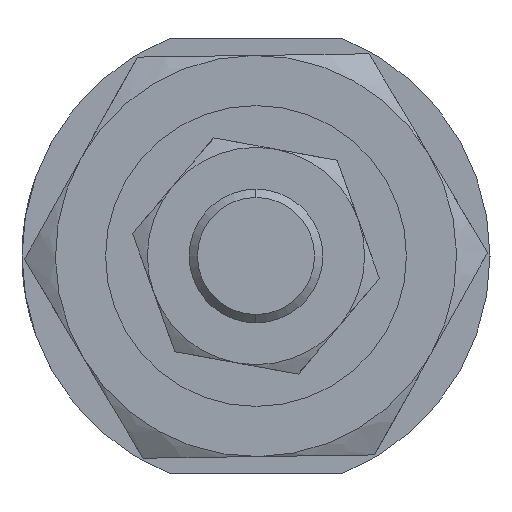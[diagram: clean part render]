
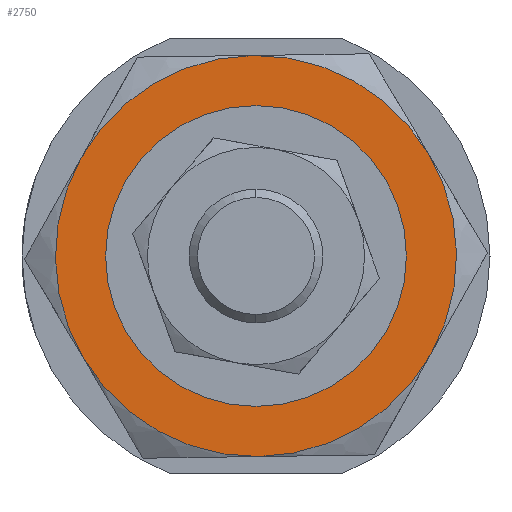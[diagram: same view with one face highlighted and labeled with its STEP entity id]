
A CAD part, left-side view. The second image highlights one B-rep face of the part: STEP entity #2750.
In plain terms, the highlighted planar face has unit normal (-1, 0, 0) as drawn and (0, 0, -1) by its records, which use the part's own axes.
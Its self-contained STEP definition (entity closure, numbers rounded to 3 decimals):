
#73 = CIRCLE ( 'NONE', #2698, 8.25 ) ;
#76 = AXIS2_PLACEMENT_3D ( 'NONE', #472, #2288, #879 ) ;
#184 = ORIENTED_EDGE ( 'NONE', *, *, #2745, .F. ) ;
#187 = DIRECTION ( 'NONE',  ( 0., 0., 1. ) ) ;
#189 = CARTESIAN_POINT ( 'NONE',  ( 0., 0., -4. ) ) ;
#280 = VERTEX_POINT ( 'NONE', #2478 ) ;
#336 = VERTEX_POINT ( 'NONE', #3116 ) ;
#351 = AXIS2_PLACEMENT_3D ( 'NONE', #2724, #1900, #3055 ) ;
#359 = CARTESIAN_POINT ( 'NONE',  ( -8.25, 0., -4. ) ) ;
#406 = EDGE_CURVE ( 'NONE', #336, #1856, #1368, .T. ) ;
#472 = CARTESIAN_POINT ( 'NONE',  ( 0., 0., -4. ) ) ;
#495 = EDGE_LOOP ( 'NONE', ( #1609, #2589 ) ) ;
#570 = ORIENTED_EDGE ( 'NONE', *, *, #3195, .F. ) ;
#588 = AXIS2_PLACEMENT_3D ( 'NONE', #1299, #620, #3022 ) ;
#593 = CARTESIAN_POINT ( 'NONE',  ( 0., 0., -4. ) ) ;
#620 = DIRECTION ( 'NONE',  ( 0., 0., 1. ) ) ;
#743 = CARTESIAN_POINT ( 'NONE',  ( 6., -10.392, -4. ) ) ;
#749 = DIRECTION ( 'NONE',  ( 0., 0., 1. ) ) ;
#879 = DIRECTION ( 'NONE',  ( 1., 0., 0. ) ) ;
#882 = DIRECTION ( 'NONE',  ( 1., 0., 0. ) ) ;
#909 = AXIS2_PLACEMENT_3D ( 'NONE', #2533, #1405, #2917 ) ;
#957 = CARTESIAN_POINT ( 'NONE',  ( -6., -10.392, -4. ) ) ;
#969 = VERTEX_POINT ( 'NONE', #359 ) ;
#976 = EDGE_LOOP ( 'NONE', ( #1313, #570, #2824, #184, #2528, #2867 ) ) ;
#991 = CIRCLE ( 'NONE', #2620, 12. ) ;
#1000 = DIRECTION ( 'NONE',  ( 1., 0., 0. ) ) ;
#1273 = CARTESIAN_POINT ( 'NONE',  ( 8.25, 0., -4. ) ) ;
#1299 = CARTESIAN_POINT ( 'NONE',  ( 0., 0., -4. ) ) ;
#1313 = ORIENTED_EDGE ( 'NONE', *, *, #2337, .F. ) ;
#1344 = CIRCLE ( 'NONE', #588, 8.25 ) ;
#1368 = CIRCLE ( 'NONE', #909, 12. ) ;
#1373 = CARTESIAN_POINT ( 'NONE',  ( -12., 0., -4. ) ) ;
#1405 = DIRECTION ( 'NONE',  ( 0., 0., 1. ) ) ;
#1609 = ORIENTED_EDGE ( 'NONE', *, *, #1782, .T. ) ;
#1735 = CARTESIAN_POINT ( 'NONE',  ( 0., 0., -4. ) ) ;
#1782 = EDGE_CURVE ( 'NONE', #2326, #969, #1344, .T. ) ;
#1793 = CARTESIAN_POINT ( 'NONE',  ( 0., 0., -4. ) ) ;
#1801 = AXIS2_PLACEMENT_3D ( 'NONE', #189, #749, #1000 ) ;
#1840 = CARTESIAN_POINT ( 'NONE',  ( 0., 0., -4. ) ) ;
#1856 = VERTEX_POINT ( 'NONE', #1373 ) ;
#1900 = DIRECTION ( 'NONE',  ( 0., 0., 1. ) ) ;
#1996 = DIRECTION ( 'NONE',  ( 1., 0., 0. ) ) ;
#2006 = VERTEX_POINT ( 'NONE', #957 ) ;
#2043 = DIRECTION ( 'NONE',  ( 0., 0., 1. ) ) ;
#2094 = CIRCLE ( 'NONE', #351, 12. ) ;
#2161 = VERTEX_POINT ( 'NONE', #743 ) ;
#2190 = CIRCLE ( 'NONE', #1801, 12. ) ;
#2194 = DIRECTION ( 'NONE',  ( 0., 0., 1. ) ) ;
#2288 = DIRECTION ( 'NONE',  ( 0., 0., 1. ) ) ;
#2326 = VERTEX_POINT ( 'NONE', #1273 ) ;
#2337 = EDGE_CURVE ( 'NONE', #280, #2749, #991, .T. ) ;
#2341 = CARTESIAN_POINT ( 'NONE',  ( 6., 10.392, -4. ) ) ;
#2453 = EDGE_CURVE ( 'NONE', #2006, #2161, #2094, .T. ) ;
#2478 = CARTESIAN_POINT ( 'NONE',  ( 12., 0., -4. ) ) ;
#2528 = ORIENTED_EDGE ( 'NONE', *, *, #406, .F. ) ;
#2533 = CARTESIAN_POINT ( 'NONE',  ( 0., 0., -4. ) ) ;
#2589 = ORIENTED_EDGE ( 'NONE', *, *, #3100, .T. ) ;
#2620 = AXIS2_PLACEMENT_3D ( 'NONE', #1840, #2043, #3249 ) ;
#2665 = CIRCLE ( 'NONE', #2973, 12. ) ;
#2669 = DIRECTION ( 'NONE',  ( 1., 0., 0. ) ) ;
#2698 = AXIS2_PLACEMENT_3D ( 'NONE', #593, #2716, #2669 ) ;
#2716 = DIRECTION ( 'NONE',  ( 0., 0., 1. ) ) ;
#2724 = CARTESIAN_POINT ( 'NONE',  ( 0., 0., -4. ) ) ;
#2745 = EDGE_CURVE ( 'NONE', #1856, #2006, #2665, .T. ) ;
#2749 = VERTEX_POINT ( 'NONE', #2341 ) ;
#2750 = ADVANCED_FACE ( 'NONE', ( #2774, #3197 ), #3048, .F. ) ;
#2774 = FACE_BOUND ( 'NONE', #495, .T. ) ;
#2824 = ORIENTED_EDGE ( 'NONE', *, *, #2453, .F. ) ;
#2867 = ORIENTED_EDGE ( 'NONE', *, *, #3179, .F. ) ;
#2917 = DIRECTION ( 'NONE',  ( 1., 0., 0. ) ) ;
#2923 = AXIS2_PLACEMENT_3D ( 'NONE', #1793, #2194, #882 ) ;
#2973 = AXIS2_PLACEMENT_3D ( 'NONE', #1735, #187, #1996 ) ;
#3022 = DIRECTION ( 'NONE',  ( 1., 0., 0. ) ) ;
#3048 = PLANE ( 'NONE',  #76 ) ;
#3055 = DIRECTION ( 'NONE',  ( 1., 0., 0. ) ) ;
#3067 = CIRCLE ( 'NONE', #2923, 12. ) ;
#3100 = EDGE_CURVE ( 'NONE', #969, #2326, #73, .T. ) ;
#3116 = CARTESIAN_POINT ( 'NONE',  ( -6., 10.392, -4. ) ) ;
#3179 = EDGE_CURVE ( 'NONE', #2749, #336, #3067, .T. ) ;
#3195 = EDGE_CURVE ( 'NONE', #2161, #280, #2190, .T. ) ;
#3197 = FACE_OUTER_BOUND ( 'NONE', #976, .T. ) ;
#3249 = DIRECTION ( 'NONE',  ( 1., 0., 0. ) ) ;
